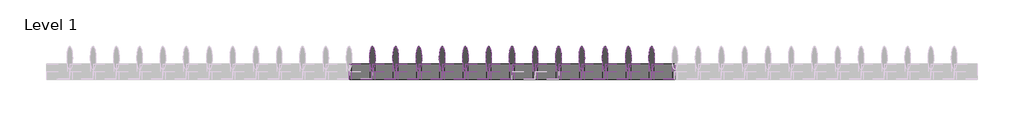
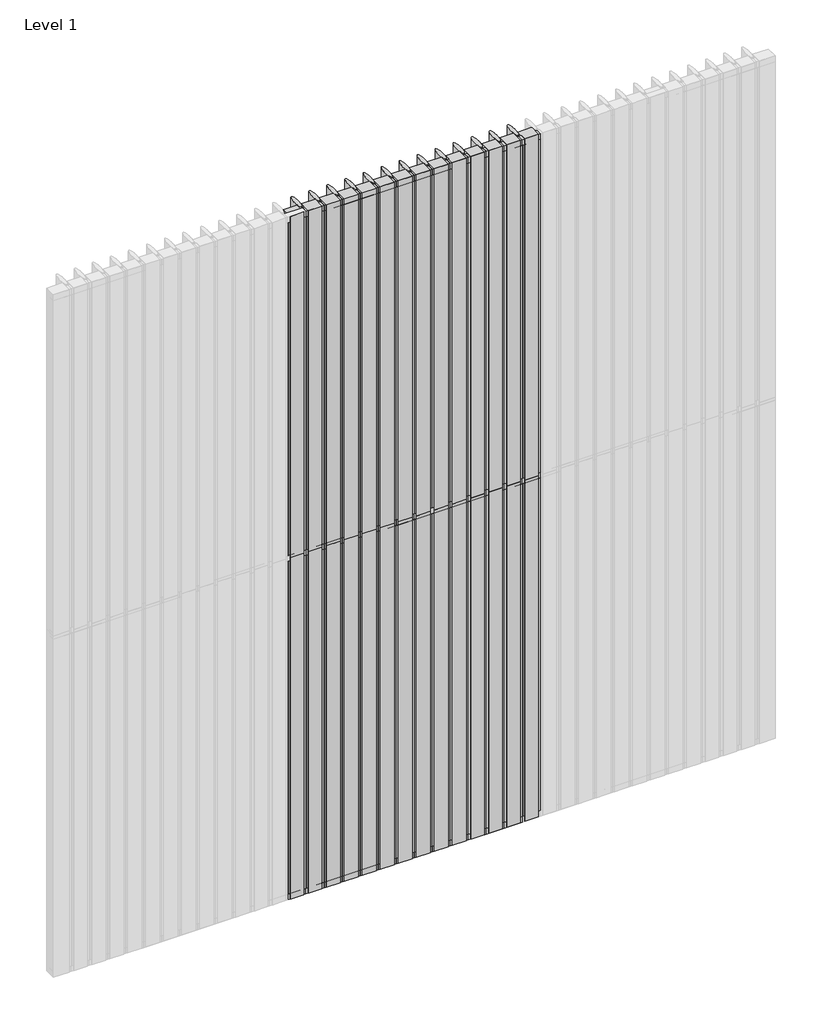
# One storey, part 2 of 3: 63 members, 56 plates.
"""IFC4 building model written with IfcOpenShell, lengths in millimetres."""

from ifc_helpers import new_model, si_unit, origin, place, context, project, spatial, transform, mapped, element, save
from components import rectangular_mullion_822d50ae, rectangular_mullion_6265e8b1, rectangular_mullion_64cc6fdd, rectangular_mullion_eb4a5411, empty_system_panel_empty_d245318e, empty_system_panel_empty_64907904

model = new_model("IFC4")

# Units and contexts
model_context = context("Model", 3, world=origin())
ifc_project = project(units=[si_unit("LENGTHUNIT", "METRE", prefix="MILLI")], contexts=[model_context])

# Site, building, storey
site = spatial("IfcSite", under=ifc_project)
building = spatial("IfcBuilding", under=site)
storey = spatial("IfcBuildingStorey", under=building, Name="Level 1", Elevation=0.0)

# Members
placement = place(None, origin())
rectangular_mullion_shape = rectangular_mullion_822d50ae(model_context)
element("IfcMember", 1, ObjectType="Rectangular Mullion : RSen_21_CWM_blade - 150 ellips - 0°_gen_duco projects", at=placement, inside=storey, context=model_context, shape_type="MappedRepresentation", body=[
    mapped(rectangular_mullion_shape, transform((3900.0, 3000.0, 0.0), x_axis=(-1.0, 0.0, 0.0), y_axis=(0.0, 1.0, 0.0), z_axis=(0.0, 0.0, -1.0))),
])
element("IfcMember", 2, ObjectType="Rectangular Mullion : RSen_21_CWM_blade - 150 ellips - 0°_gen_duco projects", at=placement, inside=storey, context=model_context, shape_type="MappedRepresentation", body=[
    mapped(rectangular_mullion_shape, transform((3750.0, 3000.0, 0.0), x_axis=(-1.0, 0.0, 0.0), y_axis=(0.0, 1.0, 0.0), z_axis=(0.0, 0.0, -1.0))),
])
element("IfcMember", 3, ObjectType="Rectangular Mullion : RSen_21_CWM_blade - 150 ellips - 0°_gen_duco projects", at=placement, inside=storey, context=model_context, shape_type="MappedRepresentation", body=[
    mapped(rectangular_mullion_shape, transform((3600.0, 3000.0, 0.0), x_axis=(-1.0, 0.0, 0.0), y_axis=(0.0, 1.0, 0.0), z_axis=(0.0, 0.0, -1.0))),
])
element("IfcMember", 4, ObjectType="Rectangular Mullion : RSen_21_CWM_blade - 150 ellips - 0°_gen_duco projects", at=placement, inside=storey, context=model_context, shape_type="MappedRepresentation", body=[
    mapped(rectangular_mullion_shape, transform((3450.0, 3000.0, 0.0), x_axis=(-1.0, 0.0, 0.0), y_axis=(0.0, 1.0, 0.0), z_axis=(0.0, 0.0, -1.0))),
])
element("IfcMember", 5, ObjectType="Rectangular Mullion : RSen_21_CWM_blade - 150 ellips - 0°_gen_duco projects", at=placement, inside=storey, context=model_context, shape_type="MappedRepresentation", body=[
    mapped(rectangular_mullion_shape, transform((3300.0, 3000.0, 0.0), x_axis=(-1.0, 0.0, 0.0), y_axis=(0.0, 1.0, 0.0), z_axis=(0.0, 0.0, -1.0))),
])
element("IfcMember", 6, ObjectType="Rectangular Mullion : RSen_21_CWM_blade - 150 ellips - 0°_gen_duco projects", at=placement, inside=storey, context=model_context, shape_type="MappedRepresentation", body=[
    mapped(rectangular_mullion_shape, transform((3150.0, 3000.0, 0.0), x_axis=(-1.0, 0.0, 0.0), y_axis=(0.0, 1.0, 0.0), z_axis=(0.0, 0.0, -1.0))),
])
element("IfcMember", 7, ObjectType="Rectangular Mullion : RSen_21_CWM_blade - 150 ellips - 0°_gen_duco projects", at=placement, inside=storey, context=model_context, shape_type="MappedRepresentation", body=[
    mapped(rectangular_mullion_shape, transform((3000.0, 3000.0, 0.0), x_axis=(-1.0, 0.0, 0.0), y_axis=(0.0, 1.0, 0.0), z_axis=(0.0, 0.0, -1.0))),
])
element("IfcMember", 8, ObjectType="Rectangular Mullion : RSen_21_CWM_blade - 150 ellips - 0°_gen_duco projects", at=placement, inside=storey, context=model_context, shape_type="MappedRepresentation", body=[
    mapped(rectangular_mullion_shape, transform((2850.0, 3000.0, 0.0), x_axis=(-1.0, 0.0, 0.0), y_axis=(0.0, 1.0, 0.0), z_axis=(0.0, 0.0, -1.0))),
])
element("IfcMember", 9, ObjectType="Rectangular Mullion : RSen_21_CWM_blade - 150 ellips - 0°_gen_duco projects", at=placement, inside=storey, context=model_context, shape_type="MappedRepresentation", body=[
    mapped(rectangular_mullion_shape, transform((2700.0, 3000.0, 0.0), x_axis=(-1.0, 0.0, 0.0), y_axis=(0.0, 1.0, 0.0), z_axis=(0.0, 0.0, -1.0))),
])
element("IfcMember", 10, ObjectType="Rectangular Mullion : RSen_21_CWM_blade - 150 ellips - 0°_gen_duco projects", at=placement, inside=storey, context=model_context, shape_type="MappedRepresentation", body=[
    mapped(rectangular_mullion_shape, transform((2550.0, 3000.0, 0.0), x_axis=(-1.0, 0.0, 0.0), y_axis=(0.0, 1.0, 0.0), z_axis=(0.0, 0.0, -1.0))),
])
element("IfcMember", 11, ObjectType="Rectangular Mullion : RSen_21_CWM_blade - 150 ellips - 0°_gen_duco projects", at=placement, inside=storey, context=model_context, shape_type="MappedRepresentation", body=[
    mapped(rectangular_mullion_shape, transform((2400.0, 3000.0, 0.0), x_axis=(-1.0, 0.0, 0.0), y_axis=(0.0, 1.0, 0.0), z_axis=(0.0, 0.0, -1.0))),
])
element("IfcMember", 12, ObjectType="Rectangular Mullion : RSen_21_CWM_blade - 150 ellips - 0°_gen_duco projects", at=placement, inside=storey, context=model_context, shape_type="MappedRepresentation", body=[
    mapped(rectangular_mullion_shape, transform((2250.0, 3000.0, 0.0), x_axis=(-1.0, 0.0, 0.0), y_axis=(0.0, 1.0, 0.0), z_axis=(0.0, 0.0, -1.0))),
])
element("IfcMember", 13, ObjectType="Rectangular Mullion : RSen_21_CWM_blade - 150 ellips - 0°_gen_duco projects", at=placement, inside=storey, context=model_context, shape_type="MappedRepresentation", body=[
    mapped(rectangular_mullion_shape, transform((2100.0, 3000.0, 0.0), x_axis=(-1.0, 0.0, 0.0), y_axis=(0.0, 1.0, 0.0), z_axis=(0.0, 0.0, -1.0))),
])
element("IfcMember", 14, ObjectType="Rectangular Mullion : RSen_21_CWM_blade - 150 ellips - 0°_gen_duco projects", at=placement, inside=storey, context=model_context, shape_type="MappedRepresentation", body=[
    mapped(rectangular_mullion_shape, transform((3900.0, 3000.0, 3000.0), x_axis=(-1.0, 0.0, 0.0), y_axis=(0.0, 1.0, 0.0), z_axis=(0.0, 0.0, -1.0))),
])
element("IfcMember", 15, ObjectType="Rectangular Mullion : RSen_21_CWM_blade - 150 ellips - 0°_gen_duco projects", at=placement, inside=storey, context=model_context, shape_type="MappedRepresentation", body=[
    mapped(rectangular_mullion_shape, transform((3750.0, 3000.0, 3000.0), x_axis=(-1.0, 0.0, 0.0), y_axis=(0.0, 1.0, 0.0), z_axis=(0.0, 0.0, -1.0))),
])
element("IfcMember", 16, ObjectType="Rectangular Mullion : RSen_21_CWM_blade - 150 ellips - 0°_gen_duco projects", at=placement, inside=storey, context=model_context, shape_type="MappedRepresentation", body=[
    mapped(rectangular_mullion_shape, transform((3600.0, 3000.0, 3000.0), x_axis=(-1.0, 0.0, 0.0), y_axis=(0.0, 1.0, 0.0), z_axis=(0.0, 0.0, -1.0))),
])
element("IfcMember", 17, ObjectType="Rectangular Mullion : RSen_21_CWM_blade - 150 ellips - 0°_gen_duco projects", at=placement, inside=storey, context=model_context, shape_type="MappedRepresentation", body=[
    mapped(rectangular_mullion_shape, transform((3450.0, 3000.0, 3000.0), x_axis=(-1.0, 0.0, 0.0), y_axis=(0.0, 1.0, 0.0), z_axis=(0.0, 0.0, -1.0))),
])
element("IfcMember", 18, ObjectType="Rectangular Mullion : RSen_21_CWM_blade - 150 ellips - 0°_gen_duco projects", at=placement, inside=storey, context=model_context, shape_type="MappedRepresentation", body=[
    mapped(rectangular_mullion_shape, transform((3300.0, 3000.0, 3000.0), x_axis=(-1.0, 0.0, 0.0), y_axis=(0.0, 1.0, 0.0), z_axis=(0.0, 0.0, -1.0))),
])
element("IfcMember", 19, ObjectType="Rectangular Mullion : RSen_21_CWM_blade - 150 ellips - 0°_gen_duco projects", at=placement, inside=storey, context=model_context, shape_type="MappedRepresentation", body=[
    mapped(rectangular_mullion_shape, transform((3150.0, 3000.0, 3000.0), x_axis=(-1.0, 0.0, 0.0), y_axis=(0.0, 1.0, 0.0), z_axis=(0.0, 0.0, -1.0))),
])
element("IfcMember", 20, ObjectType="Rectangular Mullion : RSen_21_CWM_blade - 150 ellips - 0°_gen_duco projects", at=placement, inside=storey, context=model_context, shape_type="MappedRepresentation", body=[
    mapped(rectangular_mullion_shape, transform((3000.0, 3000.0, 3000.0), x_axis=(-1.0, 0.0, 0.0), y_axis=(0.0, 1.0, 0.0), z_axis=(0.0, 0.0, -1.0))),
])
element("IfcMember", 21, ObjectType="Rectangular Mullion : RSen_21_CWM_blade - 150 ellips - 0°_gen_duco projects", at=placement, inside=storey, context=model_context, shape_type="MappedRepresentation", body=[
    mapped(rectangular_mullion_shape, transform((2850.0, 3000.0, 3000.0), x_axis=(-1.0, 0.0, 0.0), y_axis=(0.0, 1.0, 0.0), z_axis=(0.0, 0.0, -1.0))),
])
element("IfcMember", 22, ObjectType="Rectangular Mullion : RSen_21_CWM_blade - 150 ellips - 0°_gen_duco projects", at=placement, inside=storey, context=model_context, shape_type="MappedRepresentation", body=[
    mapped(rectangular_mullion_shape, transform((2700.0, 3000.0, 3000.0), x_axis=(-1.0, 0.0, 0.0), y_axis=(0.0, 1.0, 0.0), z_axis=(0.0, 0.0, -1.0))),
])
element("IfcMember", 23, ObjectType="Rectangular Mullion : RSen_21_CWM_blade - 150 ellips - 0°_gen_duco projects", at=placement, inside=storey, context=model_context, shape_type="MappedRepresentation", body=[
    mapped(rectangular_mullion_shape, transform((2550.0, 3000.0, 3000.0), x_axis=(-1.0, 0.0, 0.0), y_axis=(0.0, 1.0, 0.0), z_axis=(0.0, 0.0, -1.0))),
])
element("IfcMember", 24, ObjectType="Rectangular Mullion : RSen_21_CWM_blade - 150 ellips - 0°_gen_duco projects", at=placement, inside=storey, context=model_context, shape_type="MappedRepresentation", body=[
    mapped(rectangular_mullion_shape, transform((2400.0, 3000.0, 3000.0), x_axis=(-1.0, 0.0, 0.0), y_axis=(0.0, 1.0, 0.0), z_axis=(0.0, 0.0, -1.0))),
])
element("IfcMember", 25, ObjectType="Rectangular Mullion : RSen_21_CWM_blade - 150 ellips - 0°_gen_duco projects", at=placement, inside=storey, context=model_context, shape_type="MappedRepresentation", body=[
    mapped(rectangular_mullion_shape, transform((2250.0, 3000.0, 3000.0), x_axis=(-1.0, 0.0, 0.0), y_axis=(0.0, 1.0, 0.0), z_axis=(0.0, 0.0, -1.0))),
])
element("IfcMember", 26, ObjectType="Rectangular Mullion : RSen_21_CWM_blade - 150 ellips - 0°_gen_duco projects", at=placement, inside=storey, context=model_context, shape_type="MappedRepresentation", body=[
    mapped(rectangular_mullion_shape, transform((2100.0, 3000.0, 3000.0), x_axis=(-1.0, 0.0, 0.0), y_axis=(0.0, 1.0, 0.0), z_axis=(0.0, 0.0, -1.0))),
])
rectangular_mullion_2_shape = rectangular_mullion_6265e8b1(model_context)
element("IfcMember", 27, ObjectType="Rectangular Mullion : RSen_21_CWM_support profile 50x50 - left_gen_duco projects", at=placement, inside=storey, context=model_context, shape_type="MappedRepresentation", body=[
    mapped(rectangular_mullion_2_shape, transform((3900.0, 3000.0, 6000.0), x_axis=(0.0, 0.0, 1.0), y_axis=(0.0, 1.0, 0.0), z_axis=(-1.0, 0.0, 0.0))),
])
element("IfcMember", 28, ObjectType="Rectangular Mullion : RSen_21_CWM_support profile 50x50 - left_gen_duco projects", at=placement, inside=storey, context=model_context, shape_type="MappedRepresentation", body=[
    mapped(rectangular_mullion_2_shape, transform((3750.0, 3000.0, 6000.0), x_axis=(0.0, 0.0, 1.0), y_axis=(0.0, 1.0, 0.0), z_axis=(-1.0, 0.0, 0.0))),
])
element("IfcMember", 29, ObjectType="Rectangular Mullion : RSen_21_CWM_support profile 50x50 - left_gen_duco projects", at=placement, inside=storey, context=model_context, shape_type="MappedRepresentation", body=[
    mapped(rectangular_mullion_2_shape, transform((3600.0, 3000.0, 6000.0), x_axis=(0.0, 0.0, 1.0), y_axis=(0.0, 1.0, 0.0), z_axis=(-1.0, 0.0, 0.0))),
])
element("IfcMember", 30, ObjectType="Rectangular Mullion : RSen_21_CWM_support profile 50x50 - left_gen_duco projects", at=placement, inside=storey, context=model_context, shape_type="MappedRepresentation", body=[
    mapped(rectangular_mullion_2_shape, transform((3450.0, 3000.0, 6000.0), x_axis=(0.0, 0.0, 1.0), y_axis=(0.0, 1.0, 0.0), z_axis=(-1.0, 0.0, 0.0))),
])
element("IfcMember", 31, ObjectType="Rectangular Mullion : RSen_21_CWM_support profile 50x50 - left_gen_duco projects", at=placement, inside=storey, context=model_context, shape_type="MappedRepresentation", body=[
    mapped(rectangular_mullion_2_shape, transform((3300.0, 3000.0, 6000.0), x_axis=(0.0, 0.0, 1.0), y_axis=(0.0, 1.0, 0.0), z_axis=(-1.0, 0.0, 0.0))),
])
element("IfcMember", 32, ObjectType="Rectangular Mullion : RSen_21_CWM_support profile 50x50 - left_gen_duco projects", at=placement, inside=storey, context=model_context, shape_type="MappedRepresentation", body=[
    mapped(rectangular_mullion_2_shape, transform((3150.0, 3000.0, 6000.0), x_axis=(0.0, 0.0, 1.0), y_axis=(0.0, 1.0, 0.0), z_axis=(-1.0, 0.0, 0.0))),
])
element("IfcMember", 33, ObjectType="Rectangular Mullion : RSen_21_CWM_support profile 50x50 - left_gen_duco projects", at=placement, inside=storey, context=model_context, shape_type="MappedRepresentation", body=[
    mapped(rectangular_mullion_2_shape, transform((3000.0, 3000.0, 6000.0), x_axis=(0.0, 0.0, 1.0), y_axis=(0.0, 1.0, 0.0), z_axis=(-1.0, 0.0, 0.0))),
])
element("IfcMember", 34, ObjectType="Rectangular Mullion : RSen_21_CWM_support profile 50x50 - left_gen_duco projects", at=placement, inside=storey, context=model_context, shape_type="MappedRepresentation", body=[
    mapped(rectangular_mullion_2_shape, transform((2850.0, 3000.0, 6000.0), x_axis=(0.0, 0.0, 1.0), y_axis=(0.0, 1.0, 0.0), z_axis=(-1.0, 0.0, 0.0))),
])
element("IfcMember", 35, ObjectType="Rectangular Mullion : RSen_21_CWM_support profile 50x50 - left_gen_duco projects", at=placement, inside=storey, context=model_context, shape_type="MappedRepresentation", body=[
    mapped(rectangular_mullion_2_shape, transform((2700.0, 3000.0, 6000.0), x_axis=(0.0, 0.0, 1.0), y_axis=(0.0, 1.0, 0.0), z_axis=(-1.0, 0.0, 0.0))),
])
element("IfcMember", 36, ObjectType="Rectangular Mullion : RSen_21_CWM_support profile 50x50 - left_gen_duco projects", at=placement, inside=storey, context=model_context, shape_type="MappedRepresentation", body=[
    mapped(rectangular_mullion_2_shape, transform((2550.0, 3000.0, 6000.0), x_axis=(0.0, 0.0, 1.0), y_axis=(0.0, 1.0, 0.0), z_axis=(-1.0, 0.0, 0.0))),
])
element("IfcMember", 37, ObjectType="Rectangular Mullion : RSen_21_CWM_support profile 50x50 - left_gen_duco projects", at=placement, inside=storey, context=model_context, shape_type="MappedRepresentation", body=[
    mapped(rectangular_mullion_2_shape, transform((2400.0, 3000.0, 6000.0), x_axis=(0.0, 0.0, 1.0), y_axis=(0.0, 1.0, 0.0), z_axis=(-1.0, 0.0, 0.0))),
])
element("IfcMember", 38, ObjectType="Rectangular Mullion : RSen_21_CWM_support profile 50x50 - left_gen_duco projects", at=placement, inside=storey, context=model_context, shape_type="MappedRepresentation", body=[
    mapped(rectangular_mullion_2_shape, transform((2250.0, 3000.0, 6000.0), x_axis=(0.0, 0.0, 1.0), y_axis=(0.0, 1.0, 0.0), z_axis=(-1.0, 0.0, 0.0))),
])
element("IfcMember", 39, ObjectType="Rectangular Mullion : RSen_21_CWM_support profile 50x50 - left_gen_duco projects", at=placement, inside=storey, context=model_context, shape_type="MappedRepresentation", body=[
    mapped(rectangular_mullion_2_shape, transform((2100.0, 3000.0, 6000.0), x_axis=(0.0, 0.0, 1.0), y_axis=(0.0, 1.0, 0.0), z_axis=(-1.0, 0.0, 0.0))),
])
rectangular_mullion_3_shape = rectangular_mullion_64cc6fdd(model_context)
element("IfcMember", 40, ObjectType="Rectangular Mullion : RSen_21_CWM_support profile 50x50 - right_gen_duco projects", at=placement, inside=storey, context=model_context, shape_type="MappedRepresentation", body=[
    mapped(rectangular_mullion_3_shape, transform((3900.0, 3000.0, 0.0), x_axis=(0.0, 0.0, -1.0), y_axis=(0.0, 1.0, 0.0), z_axis=(1.0, 0.0, 0.0))),
])
element("IfcMember", 41, ObjectType="Rectangular Mullion : RSen_21_CWM_support profile 50x50 - right_gen_duco projects", at=placement, inside=storey, context=model_context, shape_type="MappedRepresentation", body=[
    mapped(rectangular_mullion_3_shape, transform((3750.0, 3000.0, 0.0), x_axis=(0.0, 0.0, -1.0), y_axis=(0.0, 1.0, 0.0), z_axis=(1.0, 0.0, 0.0))),
])
element("IfcMember", 42, ObjectType="Rectangular Mullion : RSen_21_CWM_support profile 50x50 - right_gen_duco projects", at=placement, inside=storey, context=model_context, shape_type="MappedRepresentation", body=[
    mapped(rectangular_mullion_3_shape, transform((3600.0, 3000.0, 0.0), x_axis=(0.0, 0.0, -1.0), y_axis=(0.0, 1.0, 0.0), z_axis=(1.0, 0.0, 0.0))),
])
element("IfcMember", 43, ObjectType="Rectangular Mullion : RSen_21_CWM_support profile 50x50 - right_gen_duco projects", at=placement, inside=storey, context=model_context, shape_type="MappedRepresentation", body=[
    mapped(rectangular_mullion_3_shape, transform((3450.0, 3000.0, 0.0), x_axis=(0.0, 0.0, -1.0), y_axis=(0.0, 1.0, 0.0), z_axis=(1.0, 0.0, 0.0))),
])
element("IfcMember", 44, ObjectType="Rectangular Mullion : RSen_21_CWM_support profile 50x50 - right_gen_duco projects", at=placement, inside=storey, context=model_context, shape_type="MappedRepresentation", body=[
    mapped(rectangular_mullion_3_shape, transform((3300.0, 3000.0, 0.0), x_axis=(0.0, 0.0, -1.0), y_axis=(0.0, 1.0, 0.0), z_axis=(1.0, 0.0, 0.0))),
])
element("IfcMember", 45, ObjectType="Rectangular Mullion : RSen_21_CWM_support profile 50x50 - right_gen_duco projects", at=placement, inside=storey, context=model_context, shape_type="MappedRepresentation", body=[
    mapped(rectangular_mullion_3_shape, transform((3150.0, 3000.0, 0.0), x_axis=(0.0, 0.0, -1.0), y_axis=(0.0, 1.0, 0.0), z_axis=(1.0, 0.0, 0.0))),
])
element("IfcMember", 46, ObjectType="Rectangular Mullion : RSen_21_CWM_support profile 50x50 - right_gen_duco projects", at=placement, inside=storey, context=model_context, shape_type="MappedRepresentation", body=[
    mapped(rectangular_mullion_3_shape, transform((3000.0, 3000.0, 0.0), x_axis=(0.0, 0.0, -1.0), y_axis=(0.0, 1.0, 0.0), z_axis=(1.0, 0.0, 0.0))),
])
element("IfcMember", 47, ObjectType="Rectangular Mullion : RSen_21_CWM_support profile 50x50 - right_gen_duco projects", at=placement, inside=storey, context=model_context, shape_type="MappedRepresentation", body=[
    mapped(rectangular_mullion_3_shape, transform((2850.0, 3000.0, 0.0), x_axis=(0.0, 0.0, -1.0), y_axis=(0.0, 1.0, 0.0), z_axis=(1.0, 0.0, 0.0))),
])
element("IfcMember", 48, ObjectType="Rectangular Mullion : RSen_21_CWM_support profile 50x50 - right_gen_duco projects", at=placement, inside=storey, context=model_context, shape_type="MappedRepresentation", body=[
    mapped(rectangular_mullion_3_shape, transform((2700.0, 3000.0, 0.0), x_axis=(0.0, 0.0, -1.0), y_axis=(0.0, 1.0, 0.0), z_axis=(1.0, 0.0, 0.0))),
])
element("IfcMember", 49, ObjectType="Rectangular Mullion : RSen_21_CWM_support profile 50x50 - right_gen_duco projects", at=placement, inside=storey, context=model_context, shape_type="MappedRepresentation", body=[
    mapped(rectangular_mullion_3_shape, transform((2550.0, 3000.0, 0.0), x_axis=(0.0, 0.0, -1.0), y_axis=(0.0, 1.0, 0.0), z_axis=(1.0, 0.0, 0.0))),
])
element("IfcMember", 50, ObjectType="Rectangular Mullion : RSen_21_CWM_support profile 50x50 - right_gen_duco projects", at=placement, inside=storey, context=model_context, shape_type="MappedRepresentation", body=[
    mapped(rectangular_mullion_3_shape, transform((2400.0, 3000.0, 0.0), x_axis=(0.0, 0.0, -1.0), y_axis=(0.0, 1.0, 0.0), z_axis=(1.0, 0.0, 0.0))),
])
element("IfcMember", 51, ObjectType="Rectangular Mullion : RSen_21_CWM_support profile 50x50 - right_gen_duco projects", at=placement, inside=storey, context=model_context, shape_type="MappedRepresentation", body=[
    mapped(rectangular_mullion_3_shape, transform((2250.0, 3000.0, 0.0), x_axis=(0.0, 0.0, -1.0), y_axis=(0.0, 1.0, 0.0), z_axis=(1.0, 0.0, 0.0))),
])
element("IfcMember", 52, ObjectType="Rectangular Mullion : RSen_21_CWM_support profile 50x50 - right_gen_duco projects", at=placement, inside=storey, context=model_context, shape_type="MappedRepresentation", body=[
    mapped(rectangular_mullion_3_shape, transform((2100.0, 3000.0, 0.0), x_axis=(0.0, 0.0, -1.0), y_axis=(0.0, 1.0, 0.0), z_axis=(1.0, 0.0, 0.0))),
])
rectangular_mullion_4_shape = rectangular_mullion_eb4a5411(model_context)
element("IfcMember", 53, ObjectType="Rectangular Mullion : RSen_21_CWM_support profile 50x50_gen_duco projects", at=placement, inside=storey, context=model_context, shape_type="MappedRepresentation", body=[
    mapped(rectangular_mullion_4_shape, transform((3900.0, 3000.0, 3000.0), x_axis=(0.0, 0.0, 1.0), y_axis=(0.0, 1.0, 0.0), z_axis=(-1.0, 0.0, 0.0))),
])
element("IfcMember", 54, ObjectType="Rectangular Mullion : RSen_21_CWM_support profile 50x50_gen_duco projects", at=placement, inside=storey, context=model_context, shape_type="MappedRepresentation", body=[
    mapped(rectangular_mullion_4_shape, transform((3750.0, 3000.0, 3000.0), x_axis=(0.0, 0.0, 1.0), y_axis=(0.0, 1.0, 0.0), z_axis=(-1.0, 0.0, 0.0))),
])
element("IfcMember", 55, ObjectType="Rectangular Mullion : RSen_21_CWM_support profile 50x50_gen_duco projects", at=placement, inside=storey, context=model_context, shape_type="MappedRepresentation", body=[
    mapped(rectangular_mullion_4_shape, transform((3600.0, 3000.0, 3000.0), x_axis=(0.0, 0.0, 1.0), y_axis=(0.0, 1.0, 0.0), z_axis=(-1.0, 0.0, 0.0))),
])
element("IfcMember", 56, ObjectType="Rectangular Mullion : RSen_21_CWM_support profile 50x50_gen_duco projects", at=placement, inside=storey, context=model_context, shape_type="MappedRepresentation", body=[
    mapped(rectangular_mullion_4_shape, transform((3450.0, 3000.0, 3000.0), x_axis=(0.0, 0.0, 1.0), y_axis=(0.0, 1.0, 0.0), z_axis=(-1.0, 0.0, 0.0))),
])
element("IfcMember", 57, ObjectType="Rectangular Mullion : RSen_21_CWM_support profile 50x50_gen_duco projects", at=placement, inside=storey, context=model_context, shape_type="MappedRepresentation", body=[
    mapped(rectangular_mullion_4_shape, transform((3300.0, 3000.0, 3000.0), x_axis=(0.0, 0.0, 1.0), y_axis=(0.0, 1.0, 0.0), z_axis=(-1.0, 0.0, 0.0))),
])
element("IfcMember", 58, ObjectType="Rectangular Mullion : RSen_21_CWM_support profile 50x50_gen_duco projects", at=placement, inside=storey, context=model_context, shape_type="MappedRepresentation", body=[
    mapped(rectangular_mullion_4_shape, transform((2850.0, 3000.0, 3000.0), x_axis=(0.0, 0.0, 1.0), y_axis=(0.0, 1.0, 0.0), z_axis=(-1.0, 0.0, 0.0))),
])
element("IfcMember", 59, ObjectType="Rectangular Mullion : RSen_21_CWM_support profile 50x50_gen_duco projects", at=placement, inside=storey, context=model_context, shape_type="MappedRepresentation", body=[
    mapped(rectangular_mullion_4_shape, transform((2700.0, 3000.0, 3000.0), x_axis=(0.0, 0.0, 1.0), y_axis=(0.0, 1.0, 0.0), z_axis=(-1.0, 0.0, 0.0))),
])
element("IfcMember", 60, ObjectType="Rectangular Mullion : RSen_21_CWM_support profile 50x50_gen_duco projects", at=placement, inside=storey, context=model_context, shape_type="MappedRepresentation", body=[
    mapped(rectangular_mullion_4_shape, transform((2550.0, 3000.0, 3000.0), x_axis=(0.0, 0.0, 1.0), y_axis=(0.0, 1.0, 0.0), z_axis=(-1.0, 0.0, 0.0))),
])
element("IfcMember", 61, ObjectType="Rectangular Mullion : RSen_21_CWM_support profile 50x50_gen_duco projects", at=placement, inside=storey, context=model_context, shape_type="MappedRepresentation", body=[
    mapped(rectangular_mullion_4_shape, transform((2400.0, 3000.0, 3000.0), x_axis=(0.0, 0.0, 1.0), y_axis=(0.0, 1.0, 0.0), z_axis=(-1.0, 0.0, 0.0))),
])
element("IfcMember", 62, ObjectType="Rectangular Mullion : RSen_21_CWM_support profile 50x50_gen_duco projects", at=placement, inside=storey, context=model_context, shape_type="MappedRepresentation", body=[
    mapped(rectangular_mullion_4_shape, transform((2250.0, 3000.0, 3000.0), x_axis=(0.0, 0.0, 1.0), y_axis=(0.0, 1.0, 0.0), z_axis=(-1.0, 0.0, 0.0))),
])
element("IfcMember", 63, ObjectType="Rectangular Mullion : RSen_21_CWM_support profile 50x50_gen_duco projects", at=placement, inside=storey, context=model_context, shape_type="MappedRepresentation", body=[
    mapped(rectangular_mullion_4_shape, transform((2100.0, 3000.0, 3000.0), x_axis=(0.0, 0.0, 1.0), y_axis=(0.0, 1.0, 0.0), z_axis=(-1.0, 0.0, 0.0))),
])

# Plates
empty_system_panel_empty_shape = empty_system_panel_empty_d245318e(model_context)
element("IfcPlate", 64, ObjectType="Empty System Panel : Empty", at=placement, inside=storey, context=model_context, shape_type="MappedRepresentation", body=[
    mapped(empty_system_panel_empty_shape, transform((3975.0, 3000.0, 0.0), x_axis=(-1.0, 0.0, 0.0), y_axis=(0.0, -1.0, 0.0), z_axis=(0.0, 0.0, 1.0))),
])
element("IfcPlate", 65, ObjectType="Empty System Panel : Empty", at=placement, inside=storey, context=model_context, shape_type="MappedRepresentation", body=[
    mapped(empty_system_panel_empty_shape, transform((3825.0, 3000.0, 0.0), x_axis=(-1.0, 0.0, 0.0), y_axis=(0.0, -1.0, 0.0), z_axis=(0.0, 0.0, 1.0))),
])
element("IfcPlate", 66, ObjectType="Empty System Panel : Empty", at=placement, inside=storey, context=model_context, shape_type="MappedRepresentation", body=[
    mapped(empty_system_panel_empty_shape, transform((3675.0, 3000.0, 0.0), x_axis=(-1.0, 0.0, 0.0), y_axis=(0.0, -1.0, 0.0), z_axis=(0.0, 0.0, 1.0))),
])
element("IfcPlate", 67, ObjectType="Empty System Panel : Empty", at=placement, inside=storey, context=model_context, shape_type="MappedRepresentation", body=[
    mapped(empty_system_panel_empty_shape, transform((3525.0, 3000.0, 0.0), x_axis=(-1.0, 0.0, 0.0), y_axis=(0.0, -1.0, 0.0), z_axis=(0.0, 0.0, 1.0))),
])
element("IfcPlate", 68, ObjectType="Empty System Panel : Empty", at=placement, inside=storey, context=model_context, shape_type="MappedRepresentation", body=[
    mapped(empty_system_panel_empty_shape, transform((3375.0, 3000.0, 0.0), x_axis=(-1.0, 0.0, 0.0), y_axis=(0.0, -1.0, 0.0), z_axis=(0.0, 0.0, 1.0))),
])
element("IfcPlate", 69, ObjectType="Empty System Panel : Empty", at=placement, inside=storey, context=model_context, shape_type="MappedRepresentation", body=[
    mapped(empty_system_panel_empty_shape, transform((3225.0, 3000.0, 0.0), x_axis=(-1.0, 0.0, 0.0), y_axis=(0.0, -1.0, 0.0), z_axis=(0.0, 0.0, 1.0))),
])
element("IfcPlate", 70, ObjectType="Empty System Panel : Empty", at=placement, inside=storey, context=model_context, shape_type="MappedRepresentation", body=[
    mapped(empty_system_panel_empty_shape, transform((3075.0, 3000.0, 0.0), x_axis=(-1.0, 0.0, 0.0), y_axis=(0.0, -1.0, 0.0), z_axis=(0.0, 0.0, 1.0))),
])
element("IfcPlate", 71, ObjectType="Empty System Panel : Empty", at=placement, inside=storey, context=model_context, shape_type="MappedRepresentation", body=[
    mapped(empty_system_panel_empty_shape, transform((2925.0, 3000.0, 0.0), x_axis=(-1.0, 0.0, 0.0), y_axis=(0.0, -1.0, 0.0), z_axis=(0.0, 0.0, 1.0))),
])
element("IfcPlate", 72, ObjectType="Empty System Panel : Empty", at=placement, inside=storey, context=model_context, shape_type="MappedRepresentation", body=[
    mapped(empty_system_panel_empty_shape, transform((2775.0, 3000.0, 0.0), x_axis=(-1.0, 0.0, 0.0), y_axis=(0.0, -1.0, 0.0), z_axis=(0.0, 0.0, 1.0))),
])
element("IfcPlate", 73, ObjectType="Empty System Panel : Empty", at=placement, inside=storey, context=model_context, shape_type="MappedRepresentation", body=[
    mapped(empty_system_panel_empty_shape, transform((2625.0, 3000.0, 0.0), x_axis=(-1.0, 0.0, 0.0), y_axis=(0.0, -1.0, 0.0), z_axis=(0.0, 0.0, 1.0))),
])
element("IfcPlate", 74, ObjectType="Empty System Panel : Empty", at=placement, inside=storey, context=model_context, shape_type="MappedRepresentation", body=[
    mapped(empty_system_panel_empty_shape, transform((2475.0, 3000.0, 0.0), x_axis=(-1.0, 0.0, 0.0), y_axis=(0.0, -1.0, 0.0), z_axis=(0.0, 0.0, 1.0))),
])
element("IfcPlate", 75, ObjectType="Empty System Panel : Empty", at=placement, inside=storey, context=model_context, shape_type="MappedRepresentation", body=[
    mapped(empty_system_panel_empty_shape, transform((2325.0, 3000.0, 0.0), x_axis=(-1.0, 0.0, 0.0), y_axis=(0.0, -1.0, 0.0), z_axis=(0.0, 0.0, 1.0))),
])
element("IfcPlate", 76, ObjectType="Empty System Panel : Empty", at=placement, inside=storey, context=model_context, shape_type="MappedRepresentation", body=[
    mapped(empty_system_panel_empty_shape, transform((2175.0, 3000.0, 0.0), x_axis=(-1.0, 0.0, 0.0), y_axis=(0.0, -1.0, 0.0), z_axis=(0.0, 0.0, 1.0))),
])
element("IfcPlate", 77, ObjectType="Empty System Panel : Empty", at=placement, inside=storey, context=model_context, shape_type="MappedRepresentation", body=[
    mapped(empty_system_panel_empty_shape, transform((2025.0, 3000.0, 0.0), x_axis=(-1.0, 0.0, 0.0), y_axis=(0.0, -1.0, 0.0), z_axis=(0.0, 0.0, 1.0))),
])
element("IfcPlate", 78, ObjectType="Empty System Panel : Empty", at=placement, inside=storey, context=model_context, shape_type="MappedRepresentation", body=[
    mapped(empty_system_panel_empty_shape, transform((3975.0, 3000.0, 3000.0), x_axis=(-1.0, 0.0, 0.0), y_axis=(0.0, -1.0, 0.0), z_axis=(0.0, 0.0, 1.0))),
])
element("IfcPlate", 79, ObjectType="Empty System Panel : Empty", at=placement, inside=storey, context=model_context, shape_type="MappedRepresentation", body=[
    mapped(empty_system_panel_empty_shape, transform((3825.0, 3000.0, 3000.0), x_axis=(-1.0, 0.0, 0.0), y_axis=(0.0, -1.0, 0.0), z_axis=(0.0, 0.0, 1.0))),
])
element("IfcPlate", 80, ObjectType="Empty System Panel : Empty", at=placement, inside=storey, context=model_context, shape_type="MappedRepresentation", body=[
    mapped(empty_system_panel_empty_shape, transform((3675.0, 3000.0, 3000.0), x_axis=(-1.0, 0.0, 0.0), y_axis=(0.0, -1.0, 0.0), z_axis=(0.0, 0.0, 1.0))),
])
element("IfcPlate", 81, ObjectType="Empty System Panel : Empty", at=placement, inside=storey, context=model_context, shape_type="MappedRepresentation", body=[
    mapped(empty_system_panel_empty_shape, transform((3525.0, 3000.0, 3000.0), x_axis=(-1.0, 0.0, 0.0), y_axis=(0.0, -1.0, 0.0), z_axis=(0.0, 0.0, 1.0))),
])
element("IfcPlate", 82, ObjectType="Empty System Panel : Empty", at=placement, inside=storey, context=model_context, shape_type="MappedRepresentation", body=[
    mapped(empty_system_panel_empty_shape, transform((3375.0, 3000.0, 3000.0), x_axis=(-1.0, 0.0, 0.0), y_axis=(0.0, -1.0, 0.0), z_axis=(0.0, 0.0, 1.0))),
])
element("IfcPlate", 83, ObjectType="Empty System Panel : Empty", at=placement, inside=storey, context=model_context, shape_type="MappedRepresentation", body=[
    mapped(empty_system_panel_empty_shape, transform((3225.0, 3000.0, 3000.0), x_axis=(-1.0, 0.0, 0.0), y_axis=(0.0, -1.0, 0.0), z_axis=(0.0, 0.0, 1.0))),
])
element("IfcPlate", 84, ObjectType="Empty System Panel : Empty", at=placement, inside=storey, context=model_context, shape_type="MappedRepresentation", body=[
    mapped(empty_system_panel_empty_shape, transform((3075.0, 3000.0, 3000.0), x_axis=(-1.0, 0.0, 0.0), y_axis=(0.0, -1.0, 0.0), z_axis=(0.0, 0.0, 1.0))),
])
element("IfcPlate", 85, ObjectType="Empty System Panel : Empty", at=placement, inside=storey, context=model_context, shape_type="MappedRepresentation", body=[
    mapped(empty_system_panel_empty_shape, transform((2925.0, 3000.0, 3000.0), x_axis=(-1.0, 0.0, 0.0), y_axis=(0.0, -1.0, 0.0), z_axis=(0.0, 0.0, 1.0))),
])
element("IfcPlate", 86, ObjectType="Empty System Panel : Empty", at=placement, inside=storey, context=model_context, shape_type="MappedRepresentation", body=[
    mapped(empty_system_panel_empty_shape, transform((2775.0, 3000.0, 3000.0), x_axis=(-1.0, 0.0, 0.0), y_axis=(0.0, -1.0, 0.0), z_axis=(0.0, 0.0, 1.0))),
])
element("IfcPlate", 87, ObjectType="Empty System Panel : Empty", at=placement, inside=storey, context=model_context, shape_type="MappedRepresentation", body=[
    mapped(empty_system_panel_empty_shape, transform((2625.0, 3000.0, 3000.0), x_axis=(-1.0, 0.0, 0.0), y_axis=(0.0, -1.0, 0.0), z_axis=(0.0, 0.0, 1.0))),
])
element("IfcPlate", 88, ObjectType="Empty System Panel : Empty", at=placement, inside=storey, context=model_context, shape_type="MappedRepresentation", body=[
    mapped(empty_system_panel_empty_shape, transform((2475.0, 3000.0, 3000.0), x_axis=(-1.0, 0.0, 0.0), y_axis=(0.0, -1.0, 0.0), z_axis=(0.0, 0.0, 1.0))),
])
element("IfcPlate", 89, ObjectType="Empty System Panel : Empty", at=placement, inside=storey, context=model_context, shape_type="MappedRepresentation", body=[
    mapped(empty_system_panel_empty_shape, transform((2325.0, 3000.0, 3000.0), x_axis=(-1.0, 0.0, 0.0), y_axis=(0.0, -1.0, 0.0), z_axis=(0.0, 0.0, 1.0))),
])
element("IfcPlate", 90, ObjectType="Empty System Panel : Empty", at=placement, inside=storey, context=model_context, shape_type="MappedRepresentation", body=[
    mapped(empty_system_panel_empty_shape, transform((2175.0, 3000.0, 3000.0), x_axis=(-1.0, 0.0, 0.0), y_axis=(0.0, -1.0, 0.0), z_axis=(0.0, 0.0, 1.0))),
])
element("IfcPlate", 91, ObjectType="Empty System Panel : Empty", at=placement, inside=storey, context=model_context, shape_type="MappedRepresentation", body=[
    mapped(empty_system_panel_empty_shape, transform((2025.0, 3000.0, 3000.0), x_axis=(-1.0, 0.0, 0.0), y_axis=(0.0, -1.0, 0.0), z_axis=(0.0, 0.0, 1.0))),
])
empty_system_panel_empty_2_shape = empty_system_panel_empty_64907904(model_context)
element("IfcPlate", 92, ObjectType="Empty System Panel : Empty", at=placement, inside=storey, context=model_context, shape_type="MappedRepresentation", body=[
    mapped(empty_system_panel_empty_2_shape, transform((3975.0, 3000.0, 50.0), x_axis=(-1.0, 0.0, 0.0), y_axis=(0.0, -1.0, 0.0), z_axis=(0.0, 0.0, 1.0))),
])
element("IfcPlate", 93, ObjectType="Empty System Panel : Empty", at=placement, inside=storey, context=model_context, shape_type="MappedRepresentation", body=[
    mapped(empty_system_panel_empty_2_shape, transform((3825.0, 3000.0, 50.0), x_axis=(-1.0, 0.0, 0.0), y_axis=(0.0, -1.0, 0.0), z_axis=(0.0, 0.0, 1.0))),
])
element("IfcPlate", 94, ObjectType="Empty System Panel : Empty", at=placement, inside=storey, context=model_context, shape_type="MappedRepresentation", body=[
    mapped(empty_system_panel_empty_2_shape, transform((3675.0, 3000.0, 50.0), x_axis=(-1.0, 0.0, 0.0), y_axis=(0.0, -1.0, 0.0), z_axis=(0.0, 0.0, 1.0))),
])
element("IfcPlate", 95, ObjectType="Empty System Panel : Empty", at=placement, inside=storey, context=model_context, shape_type="MappedRepresentation", body=[
    mapped(empty_system_panel_empty_2_shape, transform((3525.0, 3000.0, 50.0), x_axis=(-1.0, 0.0, 0.0), y_axis=(0.0, -1.0, 0.0), z_axis=(0.0, 0.0, 1.0))),
])
element("IfcPlate", 96, ObjectType="Empty System Panel : Empty", at=placement, inside=storey, context=model_context, shape_type="MappedRepresentation", body=[
    mapped(empty_system_panel_empty_2_shape, transform((3375.0, 3000.0, 50.0), x_axis=(-1.0, 0.0, 0.0), y_axis=(0.0, -1.0, 0.0), z_axis=(0.0, 0.0, 1.0))),
])
element("IfcPlate", 97, ObjectType="Empty System Panel : Empty", at=placement, inside=storey, context=model_context, shape_type="MappedRepresentation", body=[
    mapped(empty_system_panel_empty_2_shape, transform((3225.0, 3000.0, 50.0), x_axis=(-1.0, 0.0, 0.0), y_axis=(0.0, -1.0, 0.0), z_axis=(0.0, 0.0, 1.0))),
])
element("IfcPlate", 98, ObjectType="Empty System Panel : Empty", at=placement, inside=storey, context=model_context, shape_type="MappedRepresentation", body=[
    mapped(empty_system_panel_empty_2_shape, transform((3075.0, 3000.0, 50.0), x_axis=(-1.0, 0.0, 0.0), y_axis=(0.0, -1.0, 0.0), z_axis=(0.0, 0.0, 1.0))),
])
element("IfcPlate", 99, ObjectType="Empty System Panel : Empty", at=placement, inside=storey, context=model_context, shape_type="MappedRepresentation", body=[
    mapped(empty_system_panel_empty_2_shape, transform((2925.0, 3000.0, 50.0), x_axis=(-1.0, 0.0, 0.0), y_axis=(0.0, -1.0, 0.0), z_axis=(0.0, 0.0, 1.0))),
])
element("IfcPlate", 100, ObjectType="Empty System Panel : Empty", at=placement, inside=storey, context=model_context, shape_type="MappedRepresentation", body=[
    mapped(empty_system_panel_empty_2_shape, transform((2775.0, 3000.0, 50.0), x_axis=(-1.0, 0.0, 0.0), y_axis=(0.0, -1.0, 0.0), z_axis=(0.0, 0.0, 1.0))),
])
element("IfcPlate", 101, ObjectType="Empty System Panel : Empty", at=placement, inside=storey, context=model_context, shape_type="MappedRepresentation", body=[
    mapped(empty_system_panel_empty_2_shape, transform((2625.0, 3000.0, 50.0), x_axis=(-1.0, 0.0, 0.0), y_axis=(0.0, -1.0, 0.0), z_axis=(0.0, 0.0, 1.0))),
])
element("IfcPlate", 102, ObjectType="Empty System Panel : Empty", at=placement, inside=storey, context=model_context, shape_type="MappedRepresentation", body=[
    mapped(empty_system_panel_empty_2_shape, transform((2475.0, 3000.0, 50.0), x_axis=(-1.0, 0.0, 0.0), y_axis=(0.0, -1.0, 0.0), z_axis=(0.0, 0.0, 1.0))),
])
element("IfcPlate", 103, ObjectType="Empty System Panel : Empty", at=placement, inside=storey, context=model_context, shape_type="MappedRepresentation", body=[
    mapped(empty_system_panel_empty_2_shape, transform((2325.0, 3000.0, 50.0), x_axis=(-1.0, 0.0, 0.0), y_axis=(0.0, -1.0, 0.0), z_axis=(0.0, 0.0, 1.0))),
])
element("IfcPlate", 104, ObjectType="Empty System Panel : Empty", at=placement, inside=storey, context=model_context, shape_type="MappedRepresentation", body=[
    mapped(empty_system_panel_empty_2_shape, transform((2175.0, 3000.0, 50.0), x_axis=(-1.0, 0.0, 0.0), y_axis=(0.0, -1.0, 0.0), z_axis=(0.0, 0.0, 1.0))),
])
element("IfcPlate", 105, ObjectType="Empty System Panel : Empty", at=placement, inside=storey, context=model_context, shape_type="MappedRepresentation", body=[
    mapped(empty_system_panel_empty_2_shape, transform((2025.0, 3000.0, 50.0), x_axis=(-1.0, 0.0, 0.0), y_axis=(0.0, -1.0, 0.0), z_axis=(0.0, 0.0, 1.0))),
])
element("IfcPlate", 106, ObjectType="Empty System Panel : Empty", at=placement, inside=storey, context=model_context, shape_type="MappedRepresentation", body=[
    mapped(empty_system_panel_empty_2_shape, transform((3975.0, 3000.0, 3025.0), x_axis=(-1.0, 0.0, 0.0), y_axis=(0.0, -1.0, 0.0), z_axis=(0.0, 0.0, 1.0))),
])
element("IfcPlate", 107, ObjectType="Empty System Panel : Empty", at=placement, inside=storey, context=model_context, shape_type="MappedRepresentation", body=[
    mapped(empty_system_panel_empty_2_shape, transform((3825.0, 3000.0, 3025.0), x_axis=(-1.0, 0.0, 0.0), y_axis=(0.0, -1.0, 0.0), z_axis=(0.0, 0.0, 1.0))),
])
element("IfcPlate", 108, ObjectType="Empty System Panel : Empty", at=placement, inside=storey, context=model_context, shape_type="MappedRepresentation", body=[
    mapped(empty_system_panel_empty_2_shape, transform((3675.0, 3000.0, 3025.0), x_axis=(-1.0, 0.0, 0.0), y_axis=(0.0, -1.0, 0.0), z_axis=(0.0, 0.0, 1.0))),
])
element("IfcPlate", 109, ObjectType="Empty System Panel : Empty", at=placement, inside=storey, context=model_context, shape_type="MappedRepresentation", body=[
    mapped(empty_system_panel_empty_2_shape, transform((3525.0, 3000.0, 3025.0), x_axis=(-1.0, 0.0, 0.0), y_axis=(0.0, -1.0, 0.0), z_axis=(0.0, 0.0, 1.0))),
])
element("IfcPlate", 110, ObjectType="Empty System Panel : Empty", at=placement, inside=storey, context=model_context, shape_type="MappedRepresentation", body=[
    mapped(empty_system_panel_empty_2_shape, transform((3375.0, 3000.0, 3025.0), x_axis=(-1.0, 0.0, 0.0), y_axis=(0.0, -1.0, 0.0), z_axis=(0.0, 0.0, 1.0))),
])
element("IfcPlate", 111, ObjectType="Empty System Panel : Empty", at=placement, inside=storey, context=model_context, shape_type="MappedRepresentation", body=[
    mapped(empty_system_panel_empty_2_shape, transform((3225.0, 3000.0, 3025.0), x_axis=(-1.0, 0.0, 0.0), y_axis=(0.0, -1.0, 0.0), z_axis=(0.0, 0.0, 1.0))),
])
element("IfcPlate", 112, ObjectType="Empty System Panel : Empty", at=placement, inside=storey, context=model_context, shape_type="MappedRepresentation", body=[
    mapped(empty_system_panel_empty_2_shape, transform((3075.0, 3000.0, 3025.0), x_axis=(-1.0, 0.0, 0.0), y_axis=(0.0, -1.0, 0.0), z_axis=(0.0, 0.0, 1.0))),
])
element("IfcPlate", 113, ObjectType="Empty System Panel : Empty", at=placement, inside=storey, context=model_context, shape_type="MappedRepresentation", body=[
    mapped(empty_system_panel_empty_2_shape, transform((2925.0, 3000.0, 3025.0), x_axis=(-1.0, 0.0, 0.0), y_axis=(0.0, -1.0, 0.0), z_axis=(0.0, 0.0, 1.0))),
])
element("IfcPlate", 114, ObjectType="Empty System Panel : Empty", at=placement, inside=storey, context=model_context, shape_type="MappedRepresentation", body=[
    mapped(empty_system_panel_empty_2_shape, transform((2775.0, 3000.0, 3025.0), x_axis=(-1.0, 0.0, 0.0), y_axis=(0.0, -1.0, 0.0), z_axis=(0.0, 0.0, 1.0))),
])
element("IfcPlate", 115, ObjectType="Empty System Panel : Empty", at=placement, inside=storey, context=model_context, shape_type="MappedRepresentation", body=[
    mapped(empty_system_panel_empty_2_shape, transform((2625.0, 3000.0, 3025.0), x_axis=(-1.0, 0.0, 0.0), y_axis=(0.0, -1.0, 0.0), z_axis=(0.0, 0.0, 1.0))),
])
element("IfcPlate", 116, ObjectType="Empty System Panel : Empty", at=placement, inside=storey, context=model_context, shape_type="MappedRepresentation", body=[
    mapped(empty_system_panel_empty_2_shape, transform((2475.0, 3000.0, 3025.0), x_axis=(-1.0, 0.0, 0.0), y_axis=(0.0, -1.0, 0.0), z_axis=(0.0, 0.0, 1.0))),
])
element("IfcPlate", 117, ObjectType="Empty System Panel : Empty", at=placement, inside=storey, context=model_context, shape_type="MappedRepresentation", body=[
    mapped(empty_system_panel_empty_2_shape, transform((2325.0, 3000.0, 3025.0), x_axis=(-1.0, 0.0, 0.0), y_axis=(0.0, -1.0, 0.0), z_axis=(0.0, 0.0, 1.0))),
])
element("IfcPlate", 118, ObjectType="Empty System Panel : Empty", at=placement, inside=storey, context=model_context, shape_type="MappedRepresentation", body=[
    mapped(empty_system_panel_empty_2_shape, transform((2175.0, 3000.0, 3025.0), x_axis=(-1.0, 0.0, 0.0), y_axis=(0.0, -1.0, 0.0), z_axis=(0.0, 0.0, 1.0))),
])
element("IfcPlate", 119, ObjectType="Empty System Panel : Empty", at=placement, inside=storey, context=model_context, shape_type="MappedRepresentation", body=[
    mapped(empty_system_panel_empty_2_shape, transform((2025.0, 3000.0, 3025.0), x_axis=(-1.0, 0.0, 0.0), y_axis=(0.0, -1.0, 0.0), z_axis=(0.0, 0.0, 1.0))),
])

save(model, "model.ifc")
